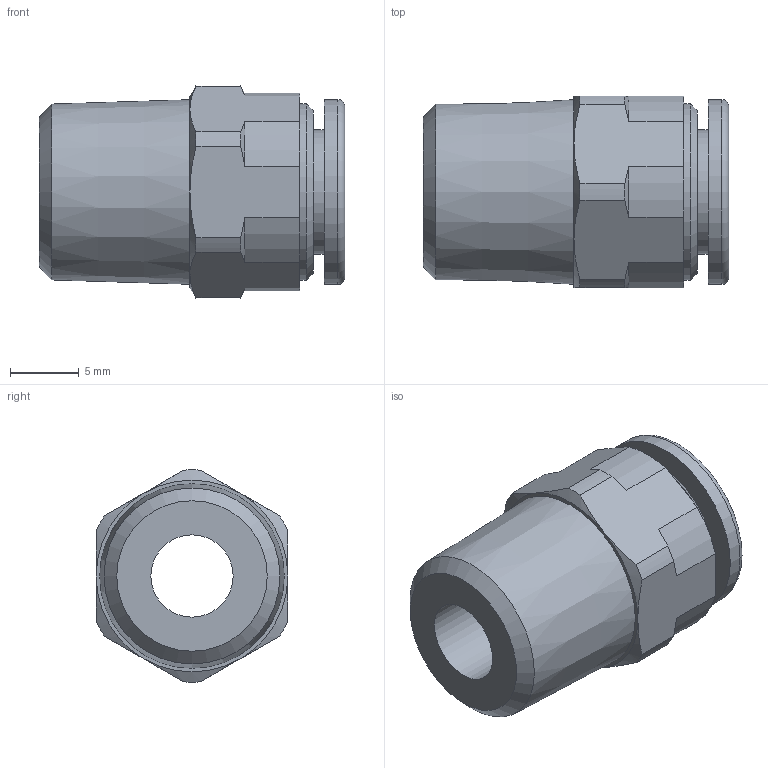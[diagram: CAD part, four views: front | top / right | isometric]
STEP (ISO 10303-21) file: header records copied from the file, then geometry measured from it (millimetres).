
FILE_DESCRIPTION(/* description */ (''),/* implementation_level */ '2;1');
FILE_NAME(/* name */ 'E:\2013年度版　3D-DATA\【02】 TOUCH CONNECTOR FIVE SUS\[01] MALE CONNECTOR\[09] FS8-02M FS8-02MW.stp',/* time_stamp */ '2013-08-06T16:45:56+09:00',/* author */ ('takahashi-pc2'),/* organization */ (''),/* preprocessor_version */ 'ST-DEVELOPER v15.2',/* originating_system */ 'Autodesk Inventor 2014',/* authorisation */ '');
FILE_SCHEMA (('AUTOMOTIVE_DESIGN { 1 0 10303 214 3 1 1 }'));
Length unit declared in the file: millimetre
Products named in the file (1): [09] FS8-02M FS8-02MW
Bounding box: 22.3 x 14 x 15.49 mm (x, y, z)
Volume: 2248 mm3; surface area: 1827.3 mm2
Topology: 1 solids, 1 shells, 46 faces, 108 edges, 69 vertices
Faces by surface type: cylinder 17, cone 15, plane 13, torus 1
Full cylindrical faces by diameter (mm): 6 x1, 8 x1, 9.1 x1, 12.9 x1, 13.5 x1
Entity records: 1281 total; most frequent: CARTESIAN_POINT 263, DIRECTION 214, ORIENTED_EDGE 198, EDGE_CURVE 99, AXIS2_PLACEMENT_3D 92, VERTEX_POINT 69, EDGE_LOOP 62, ADVANCED_FACE 46
